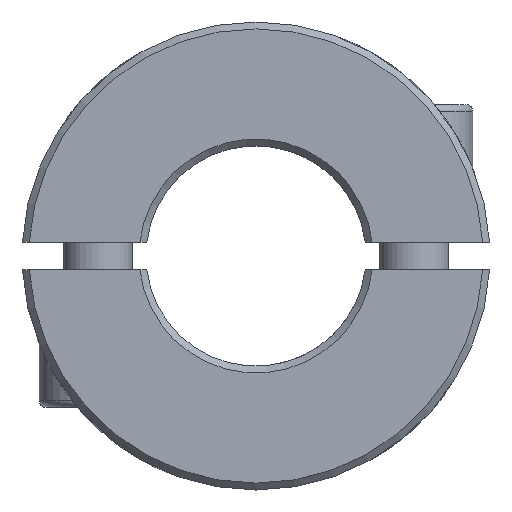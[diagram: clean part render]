
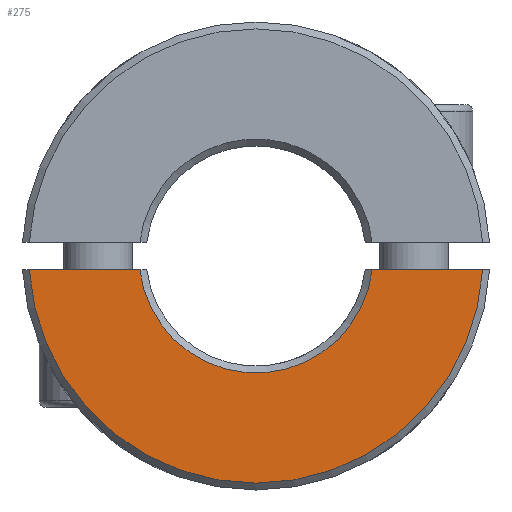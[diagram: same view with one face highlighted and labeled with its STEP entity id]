
A CAD part, front view. The second image highlights one B-rep face of the part: STEP entity #275.
In plain terms, the highlighted planar face has unit normal (0, -1, 0).
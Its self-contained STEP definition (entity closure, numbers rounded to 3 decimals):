
#275 = ADVANCED_FACE( '', ( #545 ), #546, .F. );
#545 = FACE_OUTER_BOUND( '', #865, .T. );
#546 = PLANE( '', #866 );
#865 = EDGE_LOOP( '', ( #1276, #1277, #1278, #1279 ) );
#866 = AXIS2_PLACEMENT_3D( '', #1280, #1281, #1282 );
#1276 = ORIENTED_EDGE( '', *, *, #1837, .F. );
#1277 = ORIENTED_EDGE( '', *, *, #1838, .T. );
#1278 = ORIENTED_EDGE( '', *, *, #1839, .F. );
#1279 = ORIENTED_EDGE( '', *, *, #1840, .T. );
#1280 = CARTESIAN_POINT( '', ( 0., -50., 0. ) );
#1281 = DIRECTION( '', ( 0., 1., 0. ) );
#1282 = DIRECTION( '', ( 0., 0., 1. ) );
#1837 = EDGE_CURVE( '', #2153, #2154, #2155, .T. );
#1838 = EDGE_CURVE( '', #2153, #2156, #2157, .F. );
#1839 = EDGE_CURVE( '', #2158, #2156, #2159, .T. );
#1840 = EDGE_CURVE( '', #2158, #2154, #2160, .T. );
#2153 = VERTEX_POINT( '', #3555 );
#2154 = VERTEX_POINT( '', #3556 );
#2155 = LINE( '', #3557, #3558 );
#2156 = VERTEX_POINT( '', #3559 );
#2157 = CIRCLE( '', #3560, 16.5 );
#2158 = VERTEX_POINT( '', #3561 );
#2159 = LINE( '', #3562, #3563 );
#2160 = CIRCLE( '', #3564, 8.5 );
#3555 = CARTESIAN_POINT( '', ( -16.47, -50., -1. ) );
#3556 = CARTESIAN_POINT( '', ( -8.441, -50., -1. ) );
#3557 = CARTESIAN_POINT( '', ( 0., -50., -1. ) );
#3558 = VECTOR( '', #3907, 1000. );
#3559 = CARTESIAN_POINT( '', ( 16.47, -50., -1. ) );
#3560 = AXIS2_PLACEMENT_3D( '', #3908, #3909, #3910 );
#3561 = CARTESIAN_POINT( '', ( 8.441, -50., -1. ) );
#3562 = CARTESIAN_POINT( '', ( 0., -50., -1. ) );
#3563 = VECTOR( '', #3911, 1000. );
#3564 = AXIS2_PLACEMENT_3D( '', #3912, #3913, #3914 );
#3907 = DIRECTION( '', ( 1., 0., 0. ) );
#3908 = CARTESIAN_POINT( '', ( 0., -50., 0. ) );
#3909 = DIRECTION( '', ( 0., 1., 0. ) );
#3910 = DIRECTION( '', ( 0., 0., 1. ) );
#3911 = DIRECTION( '', ( 1., 0., 0. ) );
#3912 = CARTESIAN_POINT( '', ( 0., -50., 0. ) );
#3913 = DIRECTION( '', ( 0., 1., 0. ) );
#3914 = DIRECTION( '', ( 0., 0., 1. ) );
